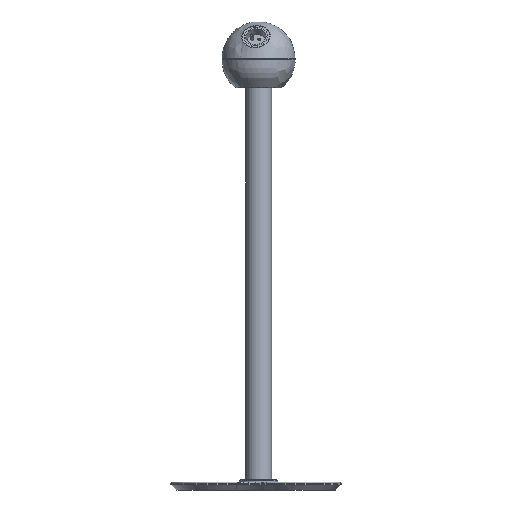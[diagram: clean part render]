
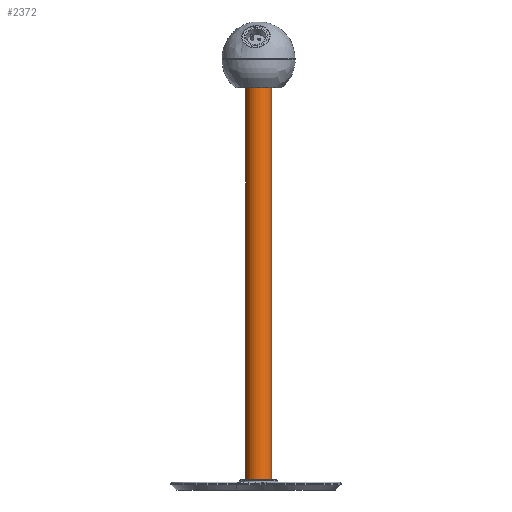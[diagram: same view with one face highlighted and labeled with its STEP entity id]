
A CAD part, front view. The second image highlights one B-rep face of the part: STEP entity #2372.
In plain terms, the highlighted cylindrical face has radius 25 mm (diameter 50 mm), a full revolution.
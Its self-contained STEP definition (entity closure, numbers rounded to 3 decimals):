
#1081 = DIRECTION ( 'NONE',  ( 0., 0., 1. ) ) ;
#2372 = ADVANCED_FACE ( 'NONE', ( #2686, #15229 ), #18663, .T. ) ;
#2618 = DIRECTION ( 'NONE',  ( 1., 0., 0. ) ) ;
#2686 = FACE_OUTER_BOUND ( 'NONE', #8386, .T. ) ;
#2952 = DIRECTION ( 'NONE',  ( 0., 0., 1. ) ) ;
#3801 = CIRCLE ( 'NONE', #21010, 25. ) ;
#4069 = AXIS2_PLACEMENT_3D ( 'NONE', #16316, #16558, #2618 ) ;
#5036 = DIRECTION ( 'NONE',  ( 1., 0., 0. ) ) ;
#7533 = CARTESIAN_POINT ( 'NONE',  ( 14.667, -6.711, -55.946 ) ) ;
#8386 = EDGE_LOOP ( 'NONE', ( #10839 ) ) ;
#9950 = EDGE_LOOP ( 'NONE', ( #19155 ) ) ;
#10525 = CARTESIAN_POINT ( 'NONE',  ( 14.667, -6.711, -805.946 ) ) ;
#10839 = ORIENTED_EDGE ( 'NONE', *, *, #20739, .T. ) ;
#13293 = DIRECTION ( 'NONE',  ( 1., 0., 0. ) ) ;
#13480 = EDGE_CURVE ( 'NONE', #13859, #13859, #3801, .T. ) ;
#13859 = VERTEX_POINT ( 'NONE', #10525 ) ;
#13959 = CIRCLE ( 'NONE', #4069, 25. ) ;
#15229 = FACE_OUTER_BOUND ( 'NONE', #9950, .T. ) ;
#16316 = CARTESIAN_POINT ( 'NONE',  ( -10.333, -6.711, -55.946 ) ) ;
#16558 = DIRECTION ( 'NONE',  ( 0., 0., -1. ) ) ;
#18418 = AXIS2_PLACEMENT_3D ( 'NONE', #21976, #1081, #13293 ) ;
#18663 = CYLINDRICAL_SURFACE ( 'NONE', #18418, 25. ) ;
#18932 = CARTESIAN_POINT ( 'NONE',  ( -10.333, -6.711, -805.946 ) ) ;
#19155 = ORIENTED_EDGE ( 'NONE', *, *, #13480, .T. ) ;
#20739 = EDGE_CURVE ( 'NONE', #21403, #21403, #13959, .T. ) ;
#21010 = AXIS2_PLACEMENT_3D ( 'NONE', #18932, #2952, #5036 ) ;
#21403 = VERTEX_POINT ( 'NONE', #7533 ) ;
#21976 = CARTESIAN_POINT ( 'NONE',  ( -10.333, -6.711, -810.946 ) ) ;
